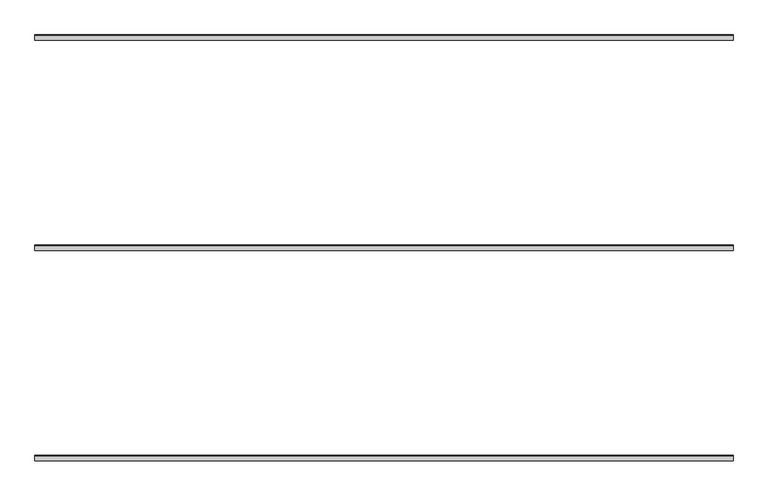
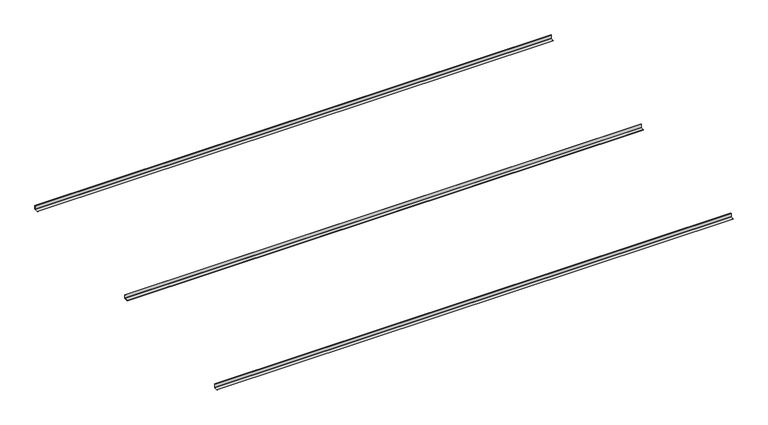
"""IFC4 building model written with IfcOpenShell, lengths in millimetres: proxy geometry, durlum_GEO_15 : durlum_GEO_15."""

from ifc_helpers import new_model, si_unit, point, frame, frame_2d, origin, place, context, project, spatial, polyline, circle_curve, trimmed, segment, composite_curve, outline, extrude, source, transform, mapped, element, save


def generic_models_ed86a27e(model_context):
    return source(origin(), model_context, "Body", "SweptSolid", [
        extrude(outline(composite_curve([segment(polyline([(-29.9, 3756.0), (-4.0, 3756.0)]), True, "CONTINUOUS"), segment(trimmed(circle_curve(frame_2d((-4.0, 3758.0)), 2.0), [point((-4.0, 3756.0))], [point((-2.0, 3758.0))], True, "CARTESIAN"), True, "CONTINUOUS"), segment(polyline([(-2.0, 3758.0), (-2.0, 3783.9), (0.0, 3783.9), (0.0, 3758.0)]), True, "CONTINUOUS"), segment(trimmed(circle_curve(frame_2d((-4.0, 3758.0)), 4.0), [point((0.0, 3758.0))], [point((-4.0, 3754.0))], False, "CARTESIAN"), True, "CONTINUOUS"), segment(polyline([(-4.0, 3754.0), (-29.9, 3754.0), (-29.9, 3756.0)]), True, "CONTINUOUS")], self_intersect=False)), frame((-1990.0, 0.0, 0.0), z_axis=(1.0, 0.0, 0.0), x_axis=(0.0, 1.0, 0.0)), (0.0, 0.0, 1.0), 3980.0),
        extrude(outline(composite_curve([segment(polyline([(1170.1, 3756.0), (1196.0, 3756.0)]), True, "CONTINUOUS"), segment(trimmed(circle_curve(frame_2d((1196.0, 3758.0)), 2.0), [point((1196.0, 3756.0))], [point((1198.0, 3758.0))], True, "CARTESIAN"), True, "CONTINUOUS"), segment(polyline([(1198.0, 3758.0), (1198.0, 3783.9), (1200.0, 3783.9), (1200.0, 3758.0)]), True, "CONTINUOUS"), segment(trimmed(circle_curve(frame_2d((1196.0, 3758.0)), 4.0), [point((1200.0, 3758.0))], [point((1196.0, 3754.0))], False, "CARTESIAN"), True, "CONTINUOUS"), segment(polyline([(1196.0, 3754.0), (1170.1, 3754.0), (1170.1, 3756.0)]), True, "CONTINUOUS")], self_intersect=False)), frame((-1990.0, 0.0, 0.0), z_axis=(1.0, 0.0, 0.0), x_axis=(0.0, 1.0, 0.0)), (0.0, 0.0, 1.0), 3980.0),
        extrude(outline(composite_curve([segment(polyline([(-1229.9, 3756.0), (-1204.0, 3756.0)]), True, "CONTINUOUS"), segment(trimmed(circle_curve(frame_2d((-1204.0, 3758.0)), 2.0), [point((-1204.0, 3756.0))], [point((-1202.0, 3758.0))], True, "CARTESIAN"), True, "CONTINUOUS"), segment(polyline([(-1202.0, 3758.0), (-1202.0, 3783.9), (-1200.0, 3783.9), (-1200.0, 3758.0)]), True, "CONTINUOUS"), segment(trimmed(circle_curve(frame_2d((-1204.0, 3758.0)), 4.0), [point((-1200.0, 3758.0))], [point((-1204.0, 3754.0))], False, "CARTESIAN"), True, "CONTINUOUS"), segment(polyline([(-1204.0, 3754.0), (-1229.9, 3754.0), (-1229.9, 3756.0)]), True, "CONTINUOUS")], self_intersect=False)), frame((-1990.0, 0.0, 0.0), z_axis=(1.0, 0.0, 0.0), x_axis=(0.0, 1.0, 0.0)), (0.0, 0.0, 1.0), 3980.0),
    ])


if __name__ == "__main__":
    model = new_model("IFC4")
    model_context = context("Model", 3, world=origin())
    ifc_project = project(units=[si_unit("LENGTHUNIT", "METRE", prefix="MILLI")], contexts=[model_context])
    site = spatial("IfcSite", under=ifc_project)
    building = spatial("IfcBuilding", under=site)
    placement = place(None, origin())
    generic_models_shape = generic_models_ed86a27e(model_context)
    element("IfcBuildingElementProxy", 1, Name="durlum_GEO_15 : durlum_GEO_15", ObjectType="durlum_GEO_15 : durlum_GEO_15", at=placement, inside=building, context=model_context, shape_type="MappedRepresentation", body=[
        mapped(generic_models_shape, transform((0.0, 0.0, 0.0), x_axis=(1.0, 0.0, 0.0), y_axis=(0.0, 1.0, 0.0), z_axis=(0.0, 0.0, 1.0))),
    ])
    save(model, "model.ifc")
